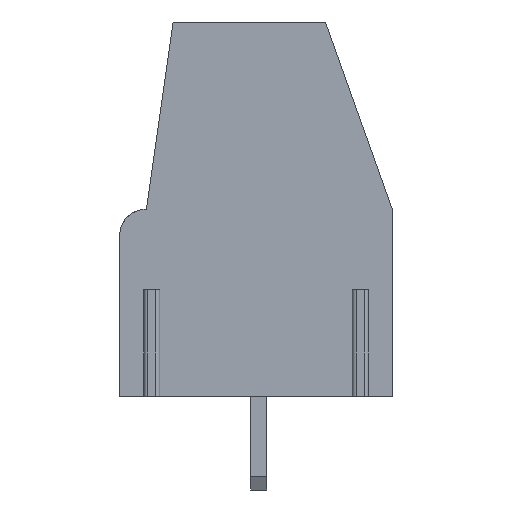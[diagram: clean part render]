
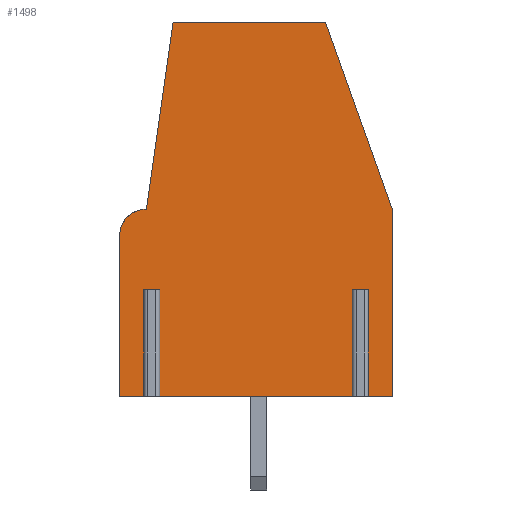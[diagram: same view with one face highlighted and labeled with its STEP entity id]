
A CAD part, left-side view. The second image highlights one B-rep face of the part: STEP entity #1498.
In plain terms, the highlighted planar face has unit normal (-1, 0, 0).
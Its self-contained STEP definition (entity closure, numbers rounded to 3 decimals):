
#519 = CARTESIAN_POINT ( 'NONE',  ( -4.795, -5.1, 0. ) ) ;
#620 = CARTESIAN_POINT ( 'NONE',  ( -4.795, 3.8, 0. ) ) ;
#647 = EDGE_CURVE ( 'NONE', #20839, #11469, #10425, .T. ) ;
#912 = ORIENTED_EDGE ( 'NONE', *, *, #2282, .F. ) ;
#945 = EDGE_CURVE ( 'NONE', #9892, #18788, #9871, .T. ) ;
#1045 = VECTOR ( 'NONE', #19468, 1000. ) ;
#1049 = VECTOR ( 'NONE', #15318, 1000. ) ;
#1315 = LINE ( 'NONE', #3395, #10866 ) ;
#1350 = EDGE_CURVE ( 'NONE', #19506, #18788, #8379, .T. ) ;
#1498 = ADVANCED_FACE ( 'NONE', ( #5919 ), #5694, .F. ) ;
#1672 = LINE ( 'NONE', #16765, #4190 ) ;
#1738 = LINE ( 'NONE', #18556, #9884 ) ;
#1980 = CARTESIAN_POINT ( 'NONE',  ( -4.795, -5.1, 7. ) ) ;
#2282 = EDGE_CURVE ( 'NONE', #6409, #14020, #14365, .T. ) ;
#2303 = VERTEX_POINT ( 'NONE', #519 ) ;
#2323 = CARTESIAN_POINT ( 'NONE',  ( -4.795, 4., 4. ) ) ;
#2572 = ORIENTED_EDGE ( 'NONE', *, *, #12111, .T. ) ;
#2745 = ORIENTED_EDGE ( 'NONE', *, *, #945, .T. ) ;
#3260 = EDGE_LOOP ( 'NONE', ( #7789, #3764, #20468, #2745, #14634, #10463, #20739, #10203, #912, #10108, #13334, #2572, #17367, #21243, #11540 ) ) ;
#3268 = DIRECTION ( 'NONE',  ( 0., -1., 0. ) ) ;
#3324 = CARTESIAN_POINT ( 'NONE',  ( -4.795, -5.1, 14. ) ) ;
#3395 = CARTESIAN_POINT ( 'NONE',  ( -4.795, 5.1, 0. ) ) ;
#3537 = VECTOR ( 'NONE', #20059, 1000. ) ;
#3634 = VECTOR ( 'NONE', #4652, 1000. ) ;
#3764 = ORIENTED_EDGE ( 'NONE', *, *, #3789, .T. ) ;
#3789 = EDGE_CURVE ( 'NONE', #17302, #20546, #20487, .T. ) ;
#4190 = VECTOR ( 'NONE', #15333, 1000. ) ;
#4303 = EDGE_CURVE ( 'NONE', #12777, #18191, #19359, .T. ) ;
#4444 = VECTOR ( 'NONE', #5190, 1000. ) ;
#4652 = DIRECTION ( 'NONE',  ( 0., -1., 0. ) ) ;
#4711 = CARTESIAN_POINT ( 'NONE',  ( -4.795, 3.8, 4. ) ) ;
#5049 = CARTESIAN_POINT ( 'NONE',  ( -4.795, 4., 4. ) ) ;
#5073 = CARTESIAN_POINT ( 'NONE',  ( -4.795, 4.1, 7. ) ) ;
#5190 = DIRECTION ( 'NONE',  ( 0., 0., -1. ) ) ;
#5209 = VECTOR ( 'NONE', #13953, 1000. ) ;
#5257 = DIRECTION ( 'NONE',  ( 0., 0., -1. ) ) ;
#5694 = PLANE ( 'NONE',  #13472 ) ;
#5919 = FACE_OUTER_BOUND ( 'NONE', #3260, .T. ) ;
#6409 = VERTEX_POINT ( 'NONE', #8565 ) ;
#7556 = VECTOR ( 'NONE', #7874, 1000. ) ;
#7644 = VERTEX_POINT ( 'NONE', #620 ) ;
#7707 = CARTESIAN_POINT ( 'NONE',  ( -4.795, -3.8, 0. ) ) ;
#7789 = ORIENTED_EDGE ( 'NONE', *, *, #8591, .T. ) ;
#7856 = EDGE_CURVE ( 'NONE', #20839, #2303, #13196, .T. ) ;
#7874 = DIRECTION ( 'NONE',  ( 0., -1., 0. ) ) ;
#8379 = LINE ( 'NONE', #5049, #10743 ) ;
#8431 = VECTOR ( 'NONE', #9162, 1000. ) ;
#8462 = CARTESIAN_POINT ( 'NONE',  ( -4.795, 5.1, 6. ) ) ;
#8565 = CARTESIAN_POINT ( 'NONE',  ( -4.795, -3.8, 4. ) ) ;
#8591 = EDGE_CURVE ( 'NONE', #17666, #17302, #12052, .T. ) ;
#8764 = CARTESIAN_POINT ( 'NONE',  ( -4.795, 3.1, 14. ) ) ;
#9162 = DIRECTION ( 'NONE',  ( 0., 0., -1. ) ) ;
#9274 = CARTESIAN_POINT ( 'NONE',  ( -4.795, -2.6, 14. ) ) ;
#9566 = CARTESIAN_POINT ( 'NONE',  ( -4.795, -4., 4. ) ) ;
#9764 = EDGE_CURVE ( 'NONE', #20546, #9892, #20313, .T. ) ;
#9871 = LINE ( 'NONE', #21745, #7556 ) ;
#9884 = VECTOR ( 'NONE', #13701, 1000. ) ;
#9892 = VERTEX_POINT ( 'NONE', #18111 ) ;
#10096 = DIRECTION ( 'NONE',  ( 0., 0., -1. ) ) ;
#10108 = ORIENTED_EDGE ( 'NONE', *, *, #14746, .T. ) ;
#10203 = ORIENTED_EDGE ( 'NONE', *, *, #14357, .T. ) ;
#10246 = EDGE_CURVE ( 'NONE', #11823, #7644, #13350, .T. ) ;
#10425 = LINE ( 'NONE', #1980, #1049 ) ;
#10463 = ORIENTED_EDGE ( 'NONE', *, *, #19672, .T. ) ;
#10743 = VECTOR ( 'NONE', #5257, 1000. ) ;
#10866 = VECTOR ( 'NONE', #15061, 1000. ) ;
#10982 = AXIS2_PLACEMENT_3D ( 'NONE', #14964, #19882, #13267 ) ;
#11148 = CARTESIAN_POINT ( 'NONE',  ( -4.795, 4., 0. ) ) ;
#11469 = VERTEX_POINT ( 'NONE', #9274 ) ;
#11540 = ORIENTED_EDGE ( 'NONE', *, *, #12802, .F. ) ;
#11823 = VERTEX_POINT ( 'NONE', #15996 ) ;
#12052 = LINE ( 'NONE', #8764, #5209 ) ;
#12111 = EDGE_CURVE ( 'NONE', #18191, #2303, #1315, .T. ) ;
#12211 = CARTESIAN_POINT ( 'NONE',  ( -4.795, 5.1, 14. ) ) ;
#12448 = DIRECTION ( 'NONE',  ( 0., 1., 0. ) ) ;
#12777 = VERTEX_POINT ( 'NONE', #17036 ) ;
#12802 = EDGE_CURVE ( 'NONE', #17666, #11469, #1738, .T. ) ;
#12962 = VECTOR ( 'NONE', #3268, 1000. ) ;
#13196 = LINE ( 'NONE', #3324, #18942 ) ;
#13267 = DIRECTION ( 'NONE',  ( 0., 1., 0. ) ) ;
#13334 = ORIENTED_EDGE ( 'NONE', *, *, #4303, .T. ) ;
#13350 = LINE ( 'NONE', #4711, #3537 ) ;
#13472 = AXIS2_PLACEMENT_3D ( 'NONE', #12211, #15906, #12448 ) ;
#13701 = DIRECTION ( 'NONE',  ( 0., -1., 0. ) ) ;
#13901 = CARTESIAN_POINT ( 'NONE',  ( -4.795, -3.8, 4. ) ) ;
#13953 = DIRECTION ( 'NONE',  ( 0., 0.141, -0.99 ) ) ;
#14020 = VERTEX_POINT ( 'NONE', #7707 ) ;
#14357 = EDGE_CURVE ( 'NONE', #7644, #14020, #1672, .T. ) ;
#14365 = LINE ( 'NONE', #16131, #8431 ) ;
#14634 = ORIENTED_EDGE ( 'NONE', *, *, #1350, .F. ) ;
#14746 = EDGE_CURVE ( 'NONE', #6409, #12777, #15243, .T. ) ;
#14794 = CARTESIAN_POINT ( 'NONE',  ( -4.795, -4., 0. ) ) ;
#14964 = CARTESIAN_POINT ( 'NONE',  ( -4.795, 4.1, 6. ) ) ;
#14997 = CARTESIAN_POINT ( 'NONE',  ( -4.795, -5.1, 7. ) ) ;
#15061 = DIRECTION ( 'NONE',  ( 0., -1., 0. ) ) ;
#15243 = LINE ( 'NONE', #13901, #12962 ) ;
#15318 = DIRECTION ( 'NONE',  ( 0., 0.336, 0.942 ) ) ;
#15333 = DIRECTION ( 'NONE',  ( 0., -1., 0. ) ) ;
#15639 = CARTESIAN_POINT ( 'NONE',  ( -4.795, 5.1, 14. ) ) ;
#15906 = DIRECTION ( 'NONE',  ( 1., 0., 0. ) ) ;
#15996 = CARTESIAN_POINT ( 'NONE',  ( -4.795, 3.8, 4. ) ) ;
#16131 = CARTESIAN_POINT ( 'NONE',  ( -4.795, -3.8, 4. ) ) ;
#16765 = CARTESIAN_POINT ( 'NONE',  ( -4.795, 5.1, 0. ) ) ;
#17036 = CARTESIAN_POINT ( 'NONE',  ( -4.795, -4., 4. ) ) ;
#17302 = VERTEX_POINT ( 'NONE', #5073 ) ;
#17367 = ORIENTED_EDGE ( 'NONE', *, *, #7856, .F. ) ;
#17666 = VERTEX_POINT ( 'NONE', #18250 ) ;
#18042 = LINE ( 'NONE', #19793, #3634 ) ;
#18111 = CARTESIAN_POINT ( 'NONE',  ( -4.795, 5.1, 0. ) ) ;
#18191 = VERTEX_POINT ( 'NONE', #14794 ) ;
#18250 = CARTESIAN_POINT ( 'NONE',  ( -4.795, 3.1, 14. ) ) ;
#18556 = CARTESIAN_POINT ( 'NONE',  ( -4.795, 5.1, 14. ) ) ;
#18788 = VERTEX_POINT ( 'NONE', #11148 ) ;
#18942 = VECTOR ( 'NONE', #10096, 1000. ) ;
#19359 = LINE ( 'NONE', #9566, #1045 ) ;
#19468 = DIRECTION ( 'NONE',  ( 0., 0., -1. ) ) ;
#19506 = VERTEX_POINT ( 'NONE', #2323 ) ;
#19672 = EDGE_CURVE ( 'NONE', #19506, #11823, #18042, .T. ) ;
#19793 = CARTESIAN_POINT ( 'NONE',  ( -4.795, 3.8, 4. ) ) ;
#19882 = DIRECTION ( 'NONE',  ( -1., 0., 0. ) ) ;
#20059 = DIRECTION ( 'NONE',  ( 0., 0., -1. ) ) ;
#20313 = LINE ( 'NONE', #15639, #4444 ) ;
#20468 = ORIENTED_EDGE ( 'NONE', *, *, #9764, .T. ) ;
#20487 = CIRCLE ( 'NONE', #10982, 1. ) ;
#20546 = VERTEX_POINT ( 'NONE', #8462 ) ;
#20739 = ORIENTED_EDGE ( 'NONE', *, *, #10246, .T. ) ;
#20839 = VERTEX_POINT ( 'NONE', #14997 ) ;
#21243 = ORIENTED_EDGE ( 'NONE', *, *, #647, .T. ) ;
#21745 = CARTESIAN_POINT ( 'NONE',  ( -4.795, 5.1, 0. ) ) ;
